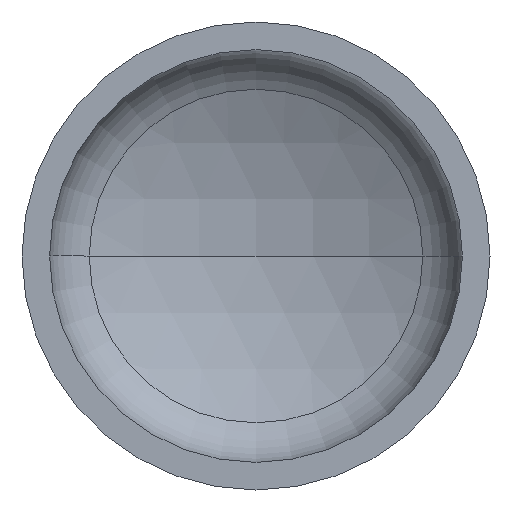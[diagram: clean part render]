
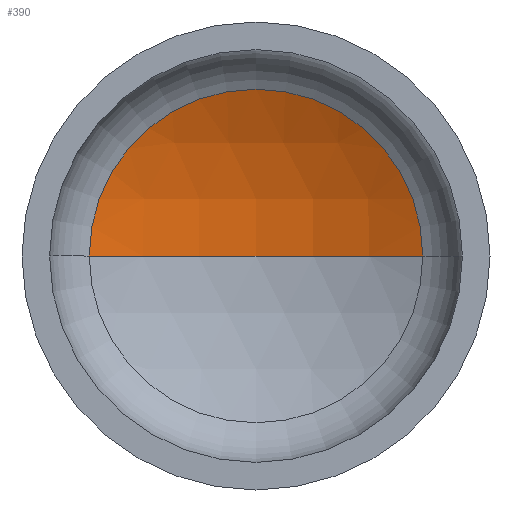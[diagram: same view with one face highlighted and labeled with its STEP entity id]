
A CAD part, front view. The second image highlights one B-rep face of the part: STEP entity #390.
In plain terms, the highlighted spherical face has radius 1520 mm.
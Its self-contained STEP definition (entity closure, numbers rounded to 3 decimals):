
#6 = VERTEX_POINT ( 'NONE', #262 ) ;
#19 = EDGE_LOOP ( 'NONE', ( #106, #88, #36 ) ) ;
#36 = ORIENTED_EDGE ( 'NONE', *, *, #140, .T. ) ;
#45 = CARTESIAN_POINT ( 'NONE',  ( 0., 334.628, 0. ) ) ;
#50 = AXIS2_PLACEMENT_3D ( 'NONE', #222, #268, #266 ) ;
#52 = VERTEX_POINT ( 'NONE', #294 ) ;
#58 = AXIS2_PLACEMENT_3D ( 'NONE', #45, #378, #230 ) ;
#61 = AXIS2_PLACEMENT_3D ( 'NONE', #197, #212, #213 ) ;
#88 = ORIENTED_EDGE ( 'NONE', *, *, #149, .T. ) ;
#100 = CIRCLE ( 'NONE', #50, 1520. ) ;
#106 = ORIENTED_EDGE ( 'NONE', *, *, #153, .F. ) ;
#140 = EDGE_CURVE ( 'NONE', #52, #6, #206, .T. ) ;
#149 = EDGE_CURVE ( 'NONE', #352, #52, #324, .T. ) ;
#153 = EDGE_CURVE ( 'NONE', #352, #6, #100, .T. ) ;
#167 = CARTESIAN_POINT ( 'NONE',  ( 0., 493.821, 0. ) ) ;
#197 = CARTESIAN_POINT ( 'NONE',  ( 0., -1026.179, 0. ) ) ;
#206 = CIRCLE ( 'NONE', #58, 677.203 ) ;
#212 = DIRECTION ( 'NONE',  ( 0., 0., -1. ) ) ;
#213 = DIRECTION ( 'NONE',  ( -1., 0., 0. ) ) ;
#222 = CARTESIAN_POINT ( 'NONE',  ( 0., -1026.179, 0. ) ) ;
#230 = DIRECTION ( 'NONE',  ( 1., 0., 0. ) ) ;
#232 = AXIS2_PLACEMENT_3D ( 'NONE', #383, #301, #368 ) ;
#262 = CARTESIAN_POINT ( 'NONE',  ( -677.203, 334.628, 0. ) ) ;
#266 = DIRECTION ( 'NONE',  ( 1., 0., 0. ) ) ;
#268 = DIRECTION ( 'NONE',  ( 0., 0., 1. ) ) ;
#282 = SPHERICAL_SURFACE ( 'NONE', #232, 1520. ) ;
#294 = CARTESIAN_POINT ( 'NONE',  ( 677.203, 334.628, 0. ) ) ;
#301 = DIRECTION ( 'NONE',  ( 0., 0., -1. ) ) ;
#324 = CIRCLE ( 'NONE', #61, 1520. ) ;
#352 = VERTEX_POINT ( 'NONE', #167 ) ;
#368 = DIRECTION ( 'NONE',  ( -1., 0., 0. ) ) ;
#378 = DIRECTION ( 'NONE',  ( 0., -1., 0. ) ) ;
#383 = CARTESIAN_POINT ( 'NONE',  ( 0., -1026.179, 0. ) ) ;
#390 = ADVANCED_FACE ( 'NONE', ( #393 ), #282, .F. ) ;
#393 = FACE_OUTER_BOUND ( 'NONE', #19, .T. ) ;
